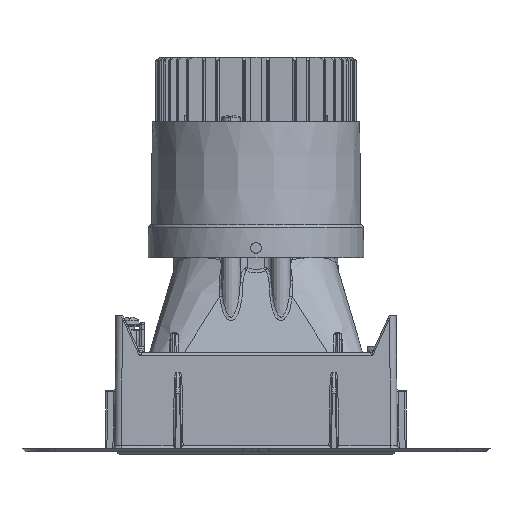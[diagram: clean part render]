
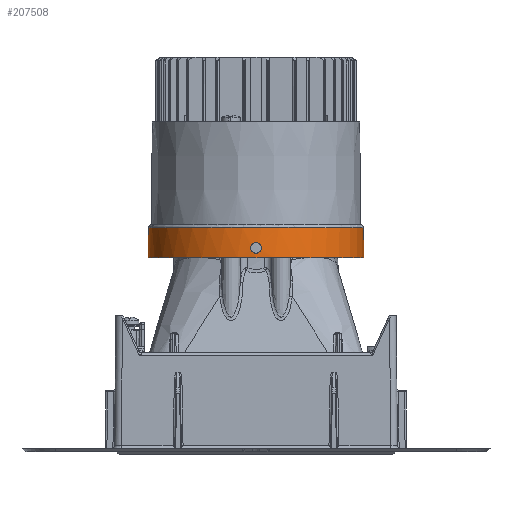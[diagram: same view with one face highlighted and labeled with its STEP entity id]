
A CAD part, left-side view. The second image highlights one B-rep face of the part: STEP entity #207508.
In plain terms, the highlighted conical face has half-angle 1 degrees and reference radius 32.221 mm.
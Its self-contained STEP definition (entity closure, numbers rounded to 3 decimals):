
#202722=CARTESIAN_POINT('Vertex',(-8.18,31.084,66.94)) ;
#202725=CARTESIAN_POINT('Axis2P3D Location',(0.,0.,66.94)) ;
#202729=CARTESIAN_POINT('Vertex',(0.,-32.143,66.94)) ;
#203543=CARTESIAN_POINT('Vertex',(0.,32.143,66.94)) ;
#207405=CARTESIAN_POINT('Axis2P3D Location',(0.,0.,66.94)) ;
#207417=CARTESIAN_POINT('Axis2P3D Location',(0.,0.,62.432)) ;
#207422=CARTESIAN_POINT('Axis2P3D Location',(0.,0.,57.923)) ;
#207426=CARTESIAN_POINT('Vertex',(0.,-32.3,57.923)) ;
#207428=CARTESIAN_POINT('Vertex',(0.,32.3,57.923)) ;
#207431=CARTESIAN_POINT('Line Origine',(0.,-8742.314,-498938.437)) ;
#207436=CARTESIAN_POINT('Line Origine',(0.,8742.314,-498938.437)) ;
#207449=CARTESIAN_POINT('Control Point',(-32.208,1.6,60.923)) ;
#207450=CARTESIAN_POINT('Control Point',(-32.207,1.6,60.986)) ;
#207451=CARTESIAN_POINT('Control Point',(-32.206,1.597,61.049)) ;
#207452=CARTESIAN_POINT('Control Point',(-32.205,1.591,61.111)) ;
#207453=CARTESIAN_POINT('Control Point',(-32.203,1.559,61.32)) ;
#207454=CARTESIAN_POINT('Control Point',(-32.203,1.501,61.5)) ;
#207455=CARTESIAN_POINT('Control Point',(-32.203,1.451,61.613)) ;
#207456=CARTESIAN_POINT('Control Point',(-32.205,1.278,61.926)) ;
#207457=CARTESIAN_POINT('Control Point',(-32.209,1.074,62.128)) ;
#207458=CARTESIAN_POINT('Control Point',(-32.212,0.939,62.236)) ;
#207459=CARTESIAN_POINT('Control Point',(-32.216,0.676,62.392)) ;
#207460=CARTESIAN_POINT('Control Point',(-32.218,0.407,62.477)) ;
#207461=CARTESIAN_POINT('Control Point',(-32.219,0.286,62.504)) ;
#207462=CARTESIAN_POINT('Control Point',(-32.22,-0.013,62.541)) ;
#207463=CARTESIAN_POINT('Control Point',(-32.219,-0.312,62.508)) ;
#207464=CARTESIAN_POINT('Control Point',(-32.218,-0.49,62.462)) ;
#207465=CARTESIAN_POINT('Control Point',(-32.214,-0.802,62.338)) ;
#207466=CARTESIAN_POINT('Control Point',(-32.209,-1.1,62.102)) ;
#207467=CARTESIAN_POINT('Control Point',(-32.206,-1.225,61.975)) ;
#207468=CARTESIAN_POINT('Control Point',(-32.203,-1.409,61.738)) ;
#207469=CARTESIAN_POINT('Control Point',(-32.203,-1.543,61.376)) ;
#207470=CARTESIAN_POINT('Control Point',(-32.203,-1.581,61.237)) ;
#207471=CARTESIAN_POINT('Control Point',(-32.205,-1.6,61.08)) ;
#207472=CARTESIAN_POINT('Control Point',(-32.208,-1.6,60.923)) ;
#207473=CARTESIAN_POINT('Vertex',(-32.208,1.6,60.923)) ;
#207475=CARTESIAN_POINT('Vertex',(-32.208,-1.6,60.923)) ;
#207479=CARTESIAN_POINT('Control Point',(-32.208,-1.6,60.923)) ;
#207480=CARTESIAN_POINT('Control Point',(-32.209,-1.6,60.86)) ;
#207481=CARTESIAN_POINT('Control Point',(-32.21,-1.597,60.797)) ;
#207482=CARTESIAN_POINT('Control Point',(-32.212,-1.591,60.735)) ;
#207483=CARTESIAN_POINT('Control Point',(-32.217,-1.559,60.526)) ;
#207484=CARTESIAN_POINT('Control Point',(-32.223,-1.501,60.346)) ;
#207485=CARTESIAN_POINT('Control Point',(-32.227,-1.451,60.233)) ;
#207486=CARTESIAN_POINT('Control Point',(-32.24,-1.279,59.921)) ;
#207487=CARTESIAN_POINT('Control Point',(-32.251,-1.074,59.718)) ;
#207488=CARTESIAN_POINT('Control Point',(-32.257,-0.939,59.61)) ;
#207489=CARTESIAN_POINT('Control Point',(-32.267,-0.676,59.455)) ;
#207490=CARTESIAN_POINT('Control Point',(-32.273,-0.407,59.369)) ;
#207491=CARTESIAN_POINT('Control Point',(-32.274,-0.286,59.342)) ;
#207492=CARTESIAN_POINT('Control Point',(-32.277,0.012,59.305)) ;
#207493=CARTESIAN_POINT('Control Point',(-32.275,0.311,59.338)) ;
#207494=CARTESIAN_POINT('Control Point',(-32.272,0.489,59.384)) ;
#207495=CARTESIAN_POINT('Control Point',(-32.263,0.801,59.508)) ;
#207496=CARTESIAN_POINT('Control Point',(-32.25,1.1,59.743)) ;
#207497=CARTESIAN_POINT('Control Point',(-32.243,1.225,59.87)) ;
#207498=CARTESIAN_POINT('Control Point',(-32.231,1.409,60.108)) ;
#207499=CARTESIAN_POINT('Control Point',(-32.219,1.543,60.469)) ;
#207500=CARTESIAN_POINT('Control Point',(-32.214,1.581,60.609)) ;
#207501=CARTESIAN_POINT('Control Point',(-32.211,1.6,60.766)) ;
#207502=CARTESIAN_POINT('Control Point',(-32.208,1.6,60.923)) ;
#202726=DIRECTION('Axis2P3D Direction',(0.,-0.,-1.)) ;
#207406=DIRECTION('Axis2P3D Direction',(0.,-0.,-1.)) ;
#207418=DIRECTION('Axis2P3D Direction',(0.,0.,-1.)) ;
#207419=DIRECTION('Axis2P3D XDirection',(0.,-1.,0.)) ;
#207423=DIRECTION('Axis2P3D Direction',(0.,-0.,-1.)) ;
#207432=DIRECTION('Vector Direction',(0.,-0.017,-1.)) ;
#207437=DIRECTION('Vector Direction',(0.,0.017,-1.)) ;
#202727=AXIS2_PLACEMENT_3D('Circle Axis2P3D',#202725,#202726,$) ;
#207407=AXIS2_PLACEMENT_3D('Circle Axis2P3D',#207405,#207406,$) ;
#207420=AXIS2_PLACEMENT_3D('Cone Axis2P3D',#207417,#207418,#207419) ;
#207424=AXIS2_PLACEMENT_3D('Circle Axis2P3D',#207422,#207423,$) ;
#207442=ORIENTED_EDGE('',*,*,#207430,.F.) ;
#207443=ORIENTED_EDGE('',*,*,#207435,.T.) ;
#207444=ORIENTED_EDGE('',*,*,#202731,.F.) ;
#207445=ORIENTED_EDGE('',*,*,#207409,.F.) ;
#207446=ORIENTED_EDGE('',*,*,#207440,.F.) ;
#207505=ORIENTED_EDGE('',*,*,#207477,.T.) ;
#207506=ORIENTED_EDGE('',*,*,#207503,.T.) ;
#207507=FACE_BOUND('',#207504,.T.) ;
#207433=VECTOR('Line Direction',#207432,1.) ;
#207438=VECTOR('Line Direction',#207437,1.) ;
#207508=ADVANCED_FACE('247\\MANIFOLD_SOLID_BREP #168008',(#207447,#207507),#207421,.T.) ;
#207448=B_SPLINE_CURVE_WITH_KNOTS('',5,(#207449,#207450,#207451,#207452,#207453,#207454,#207455,#207456,#207457,#207458,#207459,#207460,#207461,#207462,#207463,#207464,#207465,#207466,#207467,#207468,#207469,#207470,#207471,#207472),.UNSPECIFIED.,.F.,.U.,(6,3,3,3,3,3,3,6),(0.,0.447,1.556,4.011,5.978,8.887,11.116,12.227),.UNSPECIFIED.) ;
#207478=B_SPLINE_CURVE_WITH_KNOTS('',5,(#207479,#207480,#207481,#207482,#207483,#207484,#207485,#207486,#207487,#207488,#207489,#207490,#207491,#207492,#207493,#207494,#207495,#207496,#207497,#207498,#207499,#207500,#207501,#207502),.UNSPECIFIED.,.F.,.U.,(6,3,3,3,3,3,3,6),(0.,0.448,1.558,4.012,5.975,8.879,11.109,12.224),.UNSPECIFIED.) ;
#202728=CIRCLE('generated circle',#202727,32.143) ;
#207408=CIRCLE('generated circle',#207407,32.143) ;
#207425=CIRCLE('generated circle',#207424,32.3) ;
#207421=CONICAL_SURFACE('Cone',#207420,32.221,0.017) ;
#202731=EDGE_CURVE('',#202723,#202730,#202728,.F.) ;
#207409=EDGE_CURVE('',#203544,#202723,#207408,.F.) ;
#207430=EDGE_CURVE('',#207427,#207429,#207425,.T.) ;
#207435=EDGE_CURVE('',#207427,#202730,#207434,.F.) ;
#207440=EDGE_CURVE('',#207429,#203544,#207439,.F.) ;
#207477=EDGE_CURVE('',#207474,#207476,#207448,.T.) ;
#207503=EDGE_CURVE('',#207476,#207474,#207478,.T.) ;
#207441=EDGE_LOOP('',(#207442,#207443,#207444,#207445,#207446)) ;
#207504=EDGE_LOOP('',(#207505,#207506)) ;
#207447=FACE_OUTER_BOUND('',#207441,.T.) ;
#207434=LINE('Line',#207431,#207433) ;
#207439=LINE('Line',#207436,#207438) ;
#202723=VERTEX_POINT('',#202722) ;
#202730=VERTEX_POINT('',#202729) ;
#203544=VERTEX_POINT('',#203543) ;
#207427=VERTEX_POINT('',#207426) ;
#207429=VERTEX_POINT('',#207428) ;
#207474=VERTEX_POINT('',#207473) ;
#207476=VERTEX_POINT('',#207475) ;
